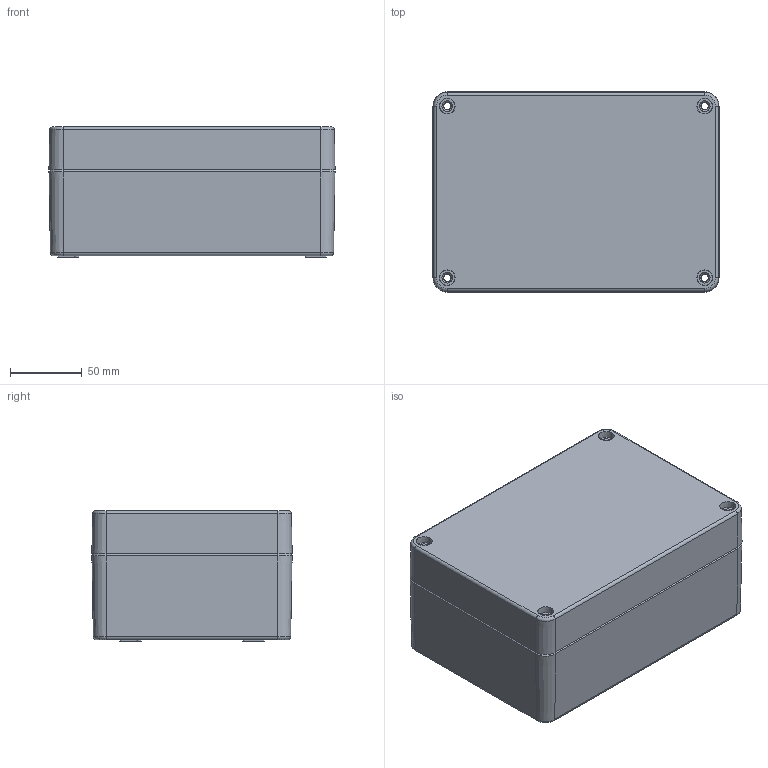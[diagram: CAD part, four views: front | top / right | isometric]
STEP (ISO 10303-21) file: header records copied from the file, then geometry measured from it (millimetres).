
FILE_DESCRIPTION (( 'STEP AP203' ), '1' );
FILE_NAME ('ALU ASSY 20014090.STEP', '2024-08-27T07:41:22', ( '' ), ( '' ), 'SwSTEP 2.0', 'SolidWorks 2018', '' );
FILE_SCHEMA (( 'CONFIG_CONTROL_DESIGN' ));
Length unit declared in the file: millimetre
Products named in the file (3): ALU LID 20014090; ALU ASSY 20014090; ALU BASE 20014090
Assembly tree (2 placements, depth 2):
  ALU ASSY 20014090
    ALU BASE 20014090
    ALU LID 20014090
Bounding box: 200 x 140 x 91 mm (x, y, z)
Volume: 586152.5 mm3; surface area: 241832.7 mm2
Topology: 2 solids, 2 shells, 604 faces, 1451 edges, 891 vertices
Faces by surface type: plane 228, cone 154, cylinder 149, torus 56, bspline 17
Entity records: 20806 total; most frequent: CARTESIAN_POINT 6230, DIRECTION 3120, ORIENTED_EDGE 2870, EDGE_CURVE 1435, AXIS2_PLACEMENT_3D 1163, VERTEX_POINT 891, LINE 794, VECTOR 794
